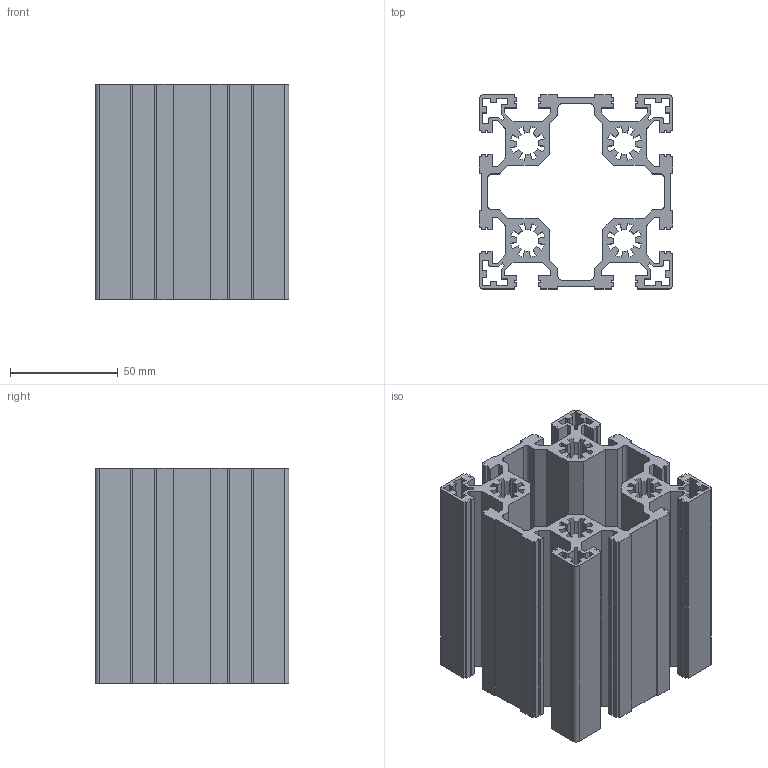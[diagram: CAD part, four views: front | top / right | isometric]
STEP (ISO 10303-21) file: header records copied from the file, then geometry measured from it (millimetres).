
FILE_DESCRIPTION (( 'STEP AP203' ), '1' );
FILE_NAME ('LIMA-9090-10.STEP', '2018-03-15T12:35:55', ( '' ), ( '' ), 'SwSTEP 2.0', 'SolidWorks 2013', '' );
FILE_SCHEMA (( 'CONFIG_CONTROL_DESIGN' ));
Length unit declared in the file: millimetre
Products named in the file (1): LIMA-9090-10
Bounding box: 90 x 90 x 100 mm (x, y, z)
Volume: 237921.4 mm3; surface area: 165392.4 mm2
Topology: 1 solids, 1 shells, 478 faces, 1428 edges, 952 vertices
Faces by surface type: plane 370, cylinder 108
Entity records: 16061 total; most frequent: CARTESIAN_POINT 2859, ORIENTED_EDGE 2856, DIRECTION 2602, EDGE_CURVE 1428, LINE 1212, VECTOR 1212, VERTEX_POINT 952, AXIS2_PLACEMENT_3D 695
